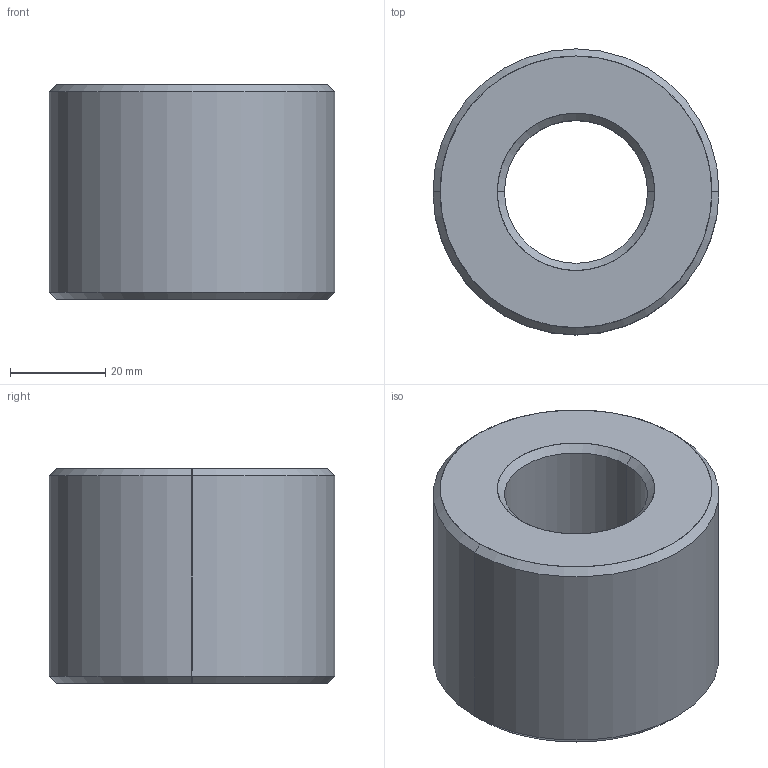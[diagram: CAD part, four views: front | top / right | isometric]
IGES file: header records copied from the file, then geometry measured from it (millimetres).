
Start section: SolidWorks IGES file using analytic representation for surfaces
Global section: file name: C:\Users\ianosborn\Desktop\L1339_v2\L1339_v2_20241024_IGES\L1339.L30-06.igs; native system: SolidWorks 2019; preprocessor: SolidWorks 2019; author: IanOsborn; date: 241024.150624; units: millimetre
Bounding box: 60 x 60 x 45 mm (x, y, z)
Surface area: 16467.7 mm2 (no closed solid volume)
Topology: 0 solids, 0 shells, 14 faces, 304 edges, 304 vertices
Faces by surface type: revolution 12, bspline 2
